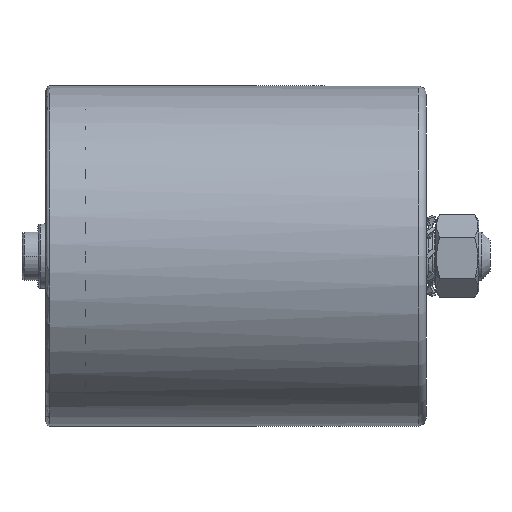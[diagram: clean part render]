
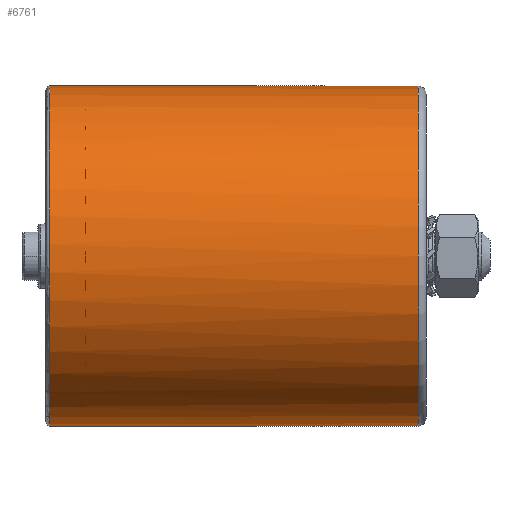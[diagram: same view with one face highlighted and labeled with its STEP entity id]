
A CAD part, left-side view. The second image highlights one B-rep face of the part: STEP entity #6761.
In plain terms, the highlighted cylindrical face has radius 42.5 mm (diameter 85 mm), a partial arc.
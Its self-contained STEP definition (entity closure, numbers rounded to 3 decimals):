
#11 = DIRECTION ( 'NONE',  ( 0., -1., 0. ) ) ;
#89 = CARTESIAN_POINT ( 'NONE',  ( 0., 94., 42.5 ) ) ;
#220 = VECTOR ( 'NONE', #8800, 1000. ) ;
#322 = CARTESIAN_POINT ( 'NONE',  ( 0., 2., 0. ) ) ;
#1081 = AXIS2_PLACEMENT_3D ( 'NONE', #322, #5712, #3399 ) ;
#1605 = VERTEX_POINT ( 'NONE', #89 ) ;
#1815 = LINE ( 'NONE', #3341, #4438 ) ;
#1957 = FACE_OUTER_BOUND ( 'NONE', #7225, .T. ) ;
#2205 = CARTESIAN_POINT ( 'NONE',  ( 0., 0., -42.5 ) ) ;
#2273 = EDGE_CURVE ( 'NONE', #7885, #5639, #8225, .T. ) ;
#2304 = DIRECTION ( 'NONE',  ( 0.596, 0., 0.803 ) ) ;
#2384 = ORIENTED_EDGE ( 'NONE', *, *, #2473, .T. ) ;
#2473 = EDGE_CURVE ( 'NONE', #1605, #7885, #2553, .T. ) ;
#2553 = CIRCLE ( 'NONE', #3018, 42.5 ) ;
#2893 = ORIENTED_EDGE ( 'NONE', *, *, #3076, .F. ) ;
#3018 = AXIS2_PLACEMENT_3D ( 'NONE', #3747, #5240, #4952 ) ;
#3076 = EDGE_CURVE ( 'NONE', #1605, #8750, #1815, .T. ) ;
#3106 = EDGE_CURVE ( 'NONE', #5639, #6531, #8852, .T. ) ;
#3341 = CARTESIAN_POINT ( 'NONE',  ( 0., 0., 42.5 ) ) ;
#3399 = DIRECTION ( 'NONE',  ( 0., 0., -1. ) ) ;
#3747 = CARTESIAN_POINT ( 'NONE',  ( 0., 94., 0. ) ) ;
#3748 = CIRCLE ( 'NONE', #1081, 42.5 ) ;
#3924 = ORIENTED_EDGE ( 'NONE', *, *, #6601, .T. ) ;
#4262 = CARTESIAN_POINT ( 'NONE',  ( 0., 2., -42.5 ) ) ;
#4438 = VECTOR ( 'NONE', #4820, 1000. ) ;
#4820 = DIRECTION ( 'NONE',  ( 0., -1., 0. ) ) ;
#4952 = DIRECTION ( 'NONE',  ( 0.596, 0., 0.803 ) ) ;
#5240 = DIRECTION ( 'NONE',  ( 0., -1., 0. ) ) ;
#5464 = CARTESIAN_POINT ( 'NONE',  ( -25.343, 94., -34.117 ) ) ;
#5534 = AXIS2_PLACEMENT_3D ( 'NONE', #7578, #11, #2304 ) ;
#5639 = VERTEX_POINT ( 'NONE', #8529 ) ;
#5712 = DIRECTION ( 'NONE',  ( 0., 1., 0. ) ) ;
#5998 = ORIENTED_EDGE ( 'NONE', *, *, #2273, .T. ) ;
#6436 = DIRECTION ( 'NONE',  ( 0., -1., 0. ) ) ;
#6531 = VERTEX_POINT ( 'NONE', #4262 ) ;
#6540 = DIRECTION ( 'NONE',  ( 0., 0., -1. ) ) ;
#6601 = EDGE_CURVE ( 'NONE', #6531, #8750, #3748, .T. ) ;
#6761 = ADVANCED_FACE ( 'NONE', ( #1957 ), #7976, .T. ) ;
#7225 = EDGE_LOOP ( 'NONE', ( #2893, #2384, #5998, #7663, #3924 ) ) ;
#7234 = CARTESIAN_POINT ( 'NONE',  ( 0., 0., 0. ) ) ;
#7578 = CARTESIAN_POINT ( 'NONE',  ( 0., 94., 0. ) ) ;
#7663 = ORIENTED_EDGE ( 'NONE', *, *, #3106, .T. ) ;
#7828 = CARTESIAN_POINT ( 'NONE',  ( 0., 2., 42.5 ) ) ;
#7885 = VERTEX_POINT ( 'NONE', #5464 ) ;
#7976 = CYLINDRICAL_SURFACE ( 'NONE', #9560, 42.5 ) ;
#8225 = CIRCLE ( 'NONE', #5534, 42.5 ) ;
#8529 = CARTESIAN_POINT ( 'NONE',  ( 0., 94., -42.5 ) ) ;
#8750 = VERTEX_POINT ( 'NONE', #7828 ) ;
#8800 = DIRECTION ( 'NONE',  ( 0., -1., 0. ) ) ;
#8852 = LINE ( 'NONE', #2205, #220 ) ;
#9560 = AXIS2_PLACEMENT_3D ( 'NONE', #7234, #6436, #6540 ) ;
